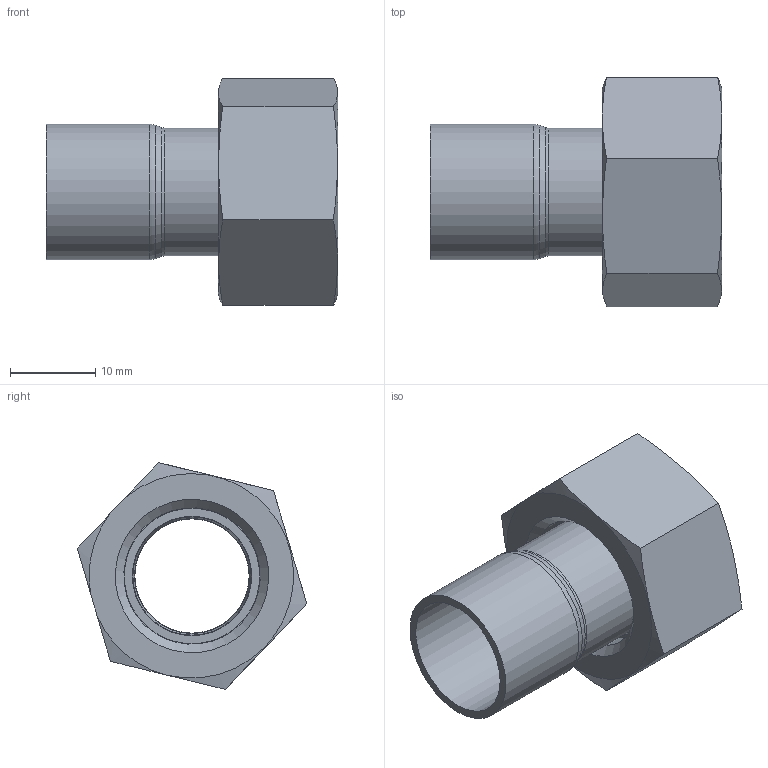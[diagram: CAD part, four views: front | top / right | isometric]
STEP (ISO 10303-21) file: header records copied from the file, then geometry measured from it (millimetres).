
FILE_DESCRIPTION((''),'2;1');
FILE_NAME('G:\SANHA-Ternat\Technik\Management\Bouwmaten + markeringen\z-maattekeningen 3D\5000_gem\5359G_gem\15359G1412_gem.stp','2019-01-25T10:18:13',('vdvijverd'),(''),'Autodesk Inventor 2009','Autodesk Inventor 2009','');
FILE_SCHEMA(('AUTOMOTIVE_DESIGN { 1 0 10303 214 1 1 1 1 }'));
Length unit declared in the file: millimetre
Products named in the file (4): 15359G1412_gem; 5359G1412_gem; BB1A006_12; centel_12
Assembly tree (3 placements, depth 2):
  15359G1412_gem
    5359G1412_gem
    BB1A006_12
    centel_12
Bounding box: 34.2 x 26.93 x 26.6 mm (x, y, z)
Volume: 4644.1 mm3; surface area: 5435.5 mm2
Topology: 3 solids, 3 shells, 40 faces, 85 edges, 53 vertices
Faces by surface type: plane 14, cone 10, cylinder 8, bspline 4, torus 4
Full cylindrical faces by diameter (mm): 13.4 x1, 14 x2, 15 x1, 15.9 x1, 16 x1, 17.8 x1, 18.631 x1
Entity records: 1238 total; most frequent: CARTESIAN_POINT 359, DIRECTION 168, ORIENTED_EDGE 130, AXIS2_PLACEMENT_3D 78, EDGE_LOOP 68, EDGE_CURVE 65, VERTEX_POINT 53, FACE_OUTER_BOUND 40
